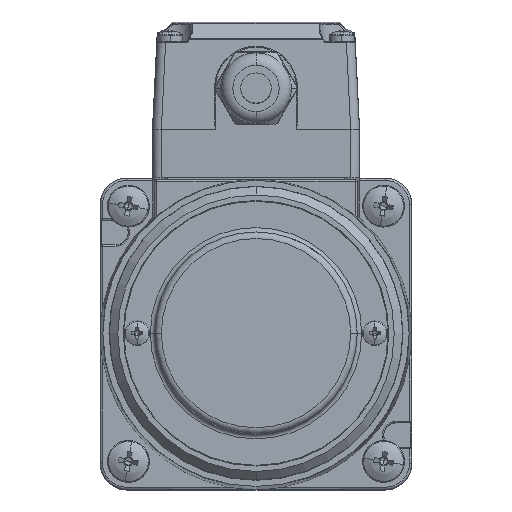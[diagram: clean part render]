
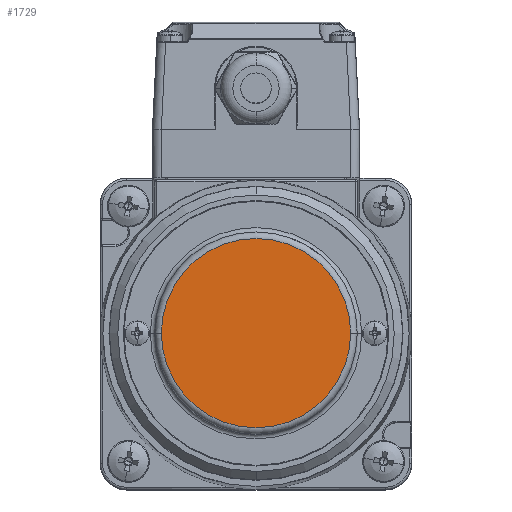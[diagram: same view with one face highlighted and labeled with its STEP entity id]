
A CAD part, top view. The second image highlights one B-rep face of the part: STEP entity #1729.
In plain terms, the highlighted planar face has unit normal (0, 0, 1) as drawn and (0, 1, 0) by its records, which use the part's own axes.
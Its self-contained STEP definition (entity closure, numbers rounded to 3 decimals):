
#428 = CARTESIAN_POINT ( 'NONE',  ( 0., 92.75, 0. ) ) ;
#750 = DIRECTION ( 'NONE',  ( 0.011, 0., -1. ) ) ;
#1729 = ADVANCED_FACE ( 'NONE', ( #6607 ), #16816, .T. ) ;
#2615 = EDGE_CURVE ( 'NONE', #18055, #18110, #23199, .T. ) ;
#6607 = FACE_OUTER_BOUND ( 'NONE', #35533, .T. ) ;
#6926 = AXIS2_PLACEMENT_3D ( 'NONE', #428, #13994, #37779 ) ;
#9916 = ORIENTED_EDGE ( 'NONE', *, *, #2615, .F. ) ;
#11408 = AXIS2_PLACEMENT_3D ( 'NONE', #13027, #39739, #30382 ) ;
#11905 = ORIENTED_EDGE ( 'NONE', *, *, #20945, .T. ) ;
#12193 = DIRECTION ( 'NONE',  ( 0., -1., 0. ) ) ;
#13027 = CARTESIAN_POINT ( 'NONE',  ( 0., 92.75, 0. ) ) ;
#13994 = DIRECTION ( 'NONE',  ( 0., 1., 0. ) ) ;
#16816 = PLANE ( 'NONE',  #11408 ) ;
#18055 = VERTEX_POINT ( 'NONE', #32991 ) ;
#18110 = VERTEX_POINT ( 'NONE', #22785 ) ;
#20945 = EDGE_CURVE ( 'NONE', #18055, #18110, #36059, .T. ) ;
#22785 = CARTESIAN_POINT ( 'NONE',  ( 0.005, 92.75, 21.5 ) ) ;
#23199 = CIRCLE ( 'NONE', #35292, 21.5 ) ;
#30382 = DIRECTION ( 'NONE',  ( 1., 0., 0. ) ) ;
#32420 = CARTESIAN_POINT ( 'NONE',  ( 0., 92.75, 0. ) ) ;
#32991 = CARTESIAN_POINT ( 'NONE',  ( -0.005, 92.75, -21.5 ) ) ;
#35292 = AXIS2_PLACEMENT_3D ( 'NONE', #32420, #12193, #750 ) ;
#35533 = EDGE_LOOP ( 'NONE', ( #9916, #11905 ) ) ;
#36059 = CIRCLE ( 'NONE', #6926, 21.5 ) ;
#37779 = DIRECTION ( 'NONE',  ( -0.011, 0., 1. ) ) ;
#39739 = DIRECTION ( 'NONE',  ( 0., 1., 0. ) ) ;
